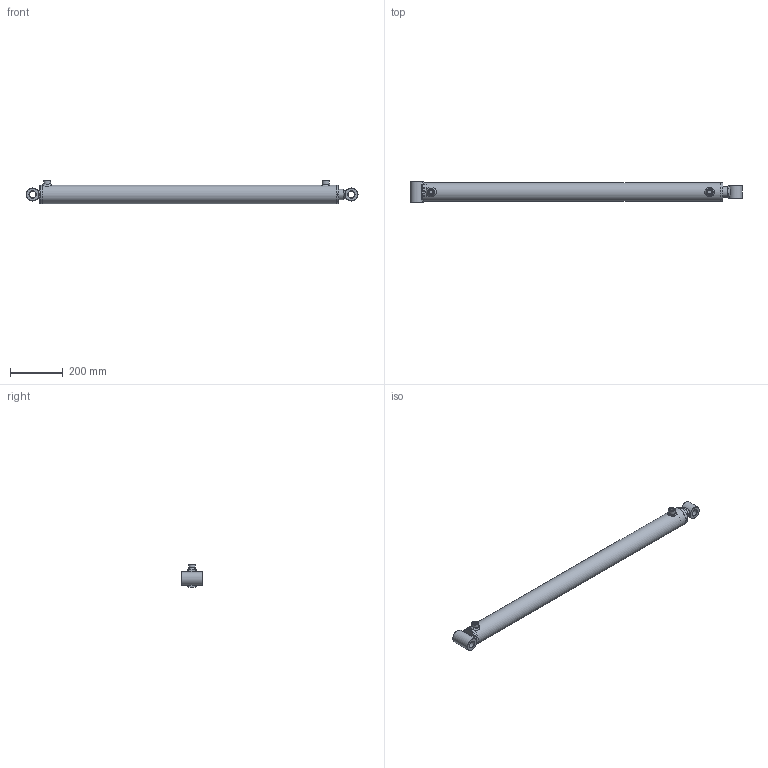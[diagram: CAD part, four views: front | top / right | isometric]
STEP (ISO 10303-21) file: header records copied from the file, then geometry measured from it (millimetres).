
FILE_DESCRIPTION( ( 'Unknown' ), '1' );
FILE_NAME( 'E:/LIBRERIA_3d/CILINDRI/HM2/HM23401000.stp', 'Unknown', ( 'Unknown' ), ( 'Unknown' ), 'PSStep 17.0.49', 'Unknown', ' ' );
FILE_SCHEMA( ( 'AUTOMOTIVE_DESIGN { 1 0 10303 214 1 1 1 1 }' ) );
Length unit declared in the file: millimetre
Products named in the file (26): CG07006040; STL3501000-oa6; Saldatura d'angolo 1-oa4; FTM3501000-oa5; CBSC220600; CT00060027; HM03401000; Saldatura con preparazione 1-oa2; Saldatura d'angolo 1-oa3; CF00060070; CBS0600000; APG0600000; CDB0002720; SBL4041000; Assem1; CB25050050; CB25050080; Saldatura d'angolo 1-oa0; Saldatura d'angolo 2-oa1
Assembly tree (18 placements, depth 4):
  Saldatura d'angolo 1-oa4
  Saldatura d'angolo 1-oa4
  Saldatura d'angolo 1-oa3
  Saldatura d'angolo 1-oa3
  Assem1
    CB25050050
    CB25050080
    HM03401000
      Saldatura con preparazione 1-oa2
      Saldatura con preparazione 1-oa2
      CF00060070
      CBS0600000
      APG0600000  x2
      CDB0002720
      SBL4041000
      CG07006040
        CG07006040
      CT00060027
        CT00060027
      STL3501000-oa6
        FTM3501000-oa5
        CBSC220600
Bounding box: 1260 x 80 x 89 mm (x, y, z)
Volume: 2966907 mm3; surface area: 732002.7 mm2
Topology: 22 solids, 22 shells, 313 faces, 627 edges, 363 vertices
Faces by surface type: bspline 102, plane 74, cylinder 59, cone 40, torus 38
Full cylindrical faces by diameter (mm): 4.25 x1, 5 x2, 6 x2, 7 x2, 14.95 x2, 16 x2, 16.6 x2, 22 x2, 25.25 x2, 26 x2, 26.4 x1, 27 x5, 33.2 x1, 40 x4, 41 x1, 42 x1, 43 x1, 44 x1, 48 x1, 48.6 x1, 50 x2, 55 x1, 55.39 x2, 58.65 x2, 59.9 x1, 60 x1, 60.3 x1, 60.5 x1, 60.6 x1, 61 x1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
Entity records: 18832 total; most frequent: CARTESIAN_POINT 11412, ORIENTED_EDGE 860, DIRECTION 850, EDGE_LOOP 482, EDGE_CURVE 430, AXIS2_PLACEMENT_3D 407, FACE_OUTER_BOUND 400, VERTEX_POINT 313
